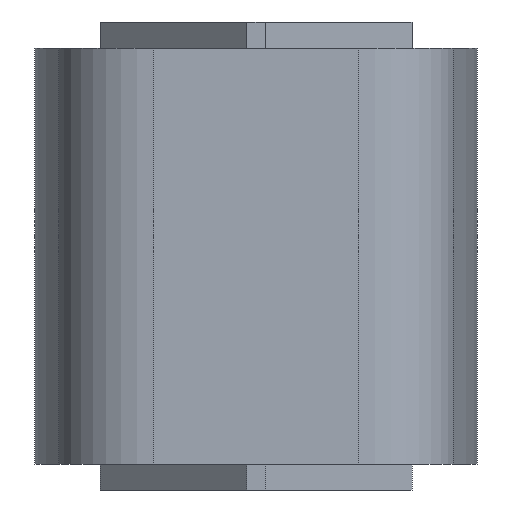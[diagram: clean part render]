
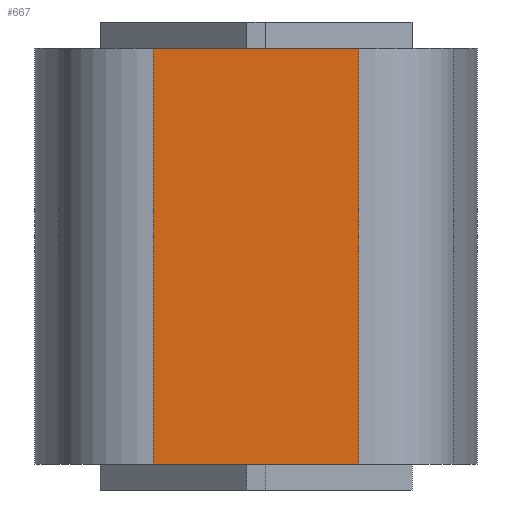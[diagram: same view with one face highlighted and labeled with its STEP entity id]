
A CAD part, left-side view. The second image highlights one B-rep face of the part: STEP entity #667.
In plain terms, the highlighted planar face has unit normal (-1, 0, 0).
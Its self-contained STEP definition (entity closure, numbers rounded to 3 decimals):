
#602=CARTESIAN_POINT('',(-74.7,-19.731,80.0));
#603=VERTEX_POINT('',#602);
#611=CARTESIAN_POINT('',(-74.7,-19.731,0.0));
#612=VERTEX_POINT('',#611);
#613=CARTESIAN_POINT('',(-74.7,-19.731,0.0));
#614=DIRECTION('',(0.0,0.0,1.0));
#615=VECTOR('',#614,80.0);
#616=LINE('',#613,#615);
#617=EDGE_CURVE('',#612,#603,#616,.T.);
#637=CARTESIAN_POINT('',(-74.7,-19.731,0.0));
#638=DIRECTION('',(-1.0,0.0,0.0));
#639=DIRECTION('',(0.0,0.0,1.0));
#640=AXIS2_PLACEMENT_3D('',#637,#638,#639);
#641=PLANE('',#640);
#642=CARTESIAN_POINT('',(-74.7,19.731,80.0));
#643=VERTEX_POINT('',#642);
#644=CARTESIAN_POINT('',(-74.7,-19.731,80.0));
#645=DIRECTION('',(0.0,1.0,0.0));
#646=VECTOR('',#645,39.463);
#647=LINE('',#644,#646);
#648=EDGE_CURVE('',#603,#643,#647,.T.);
#649=ORIENTED_EDGE('',*,*,#648,.T.);
#650=CARTESIAN_POINT('',(-74.7,19.731,0.0));
#651=VERTEX_POINT('',#650);
#652=CARTESIAN_POINT('',(-74.7,19.731,0.0));
#653=DIRECTION('',(0.0,0.0,1.0));
#654=VECTOR('',#653,80.0);
#655=LINE('',#652,#654);
#656=EDGE_CURVE('',#651,#643,#655,.T.);
#657=ORIENTED_EDGE('',*,*,#656,.F.);
#658=CARTESIAN_POINT('',(-74.7,19.731,0.0));
#659=DIRECTION('',(0.0,-1.0,0.0));
#660=VECTOR('',#659,39.463);
#661=LINE('',#658,#660);
#662=EDGE_CURVE('',#651,#612,#661,.T.);
#663=ORIENTED_EDGE('',*,*,#662,.T.);
#664=ORIENTED_EDGE('',*,*,#617,.T.);
#665=EDGE_LOOP('',(#649,#657,#663,#664));
#666=FACE_OUTER_BOUND('',#665,.T.);
#667=ADVANCED_FACE('',(#666),#641,.T.);
